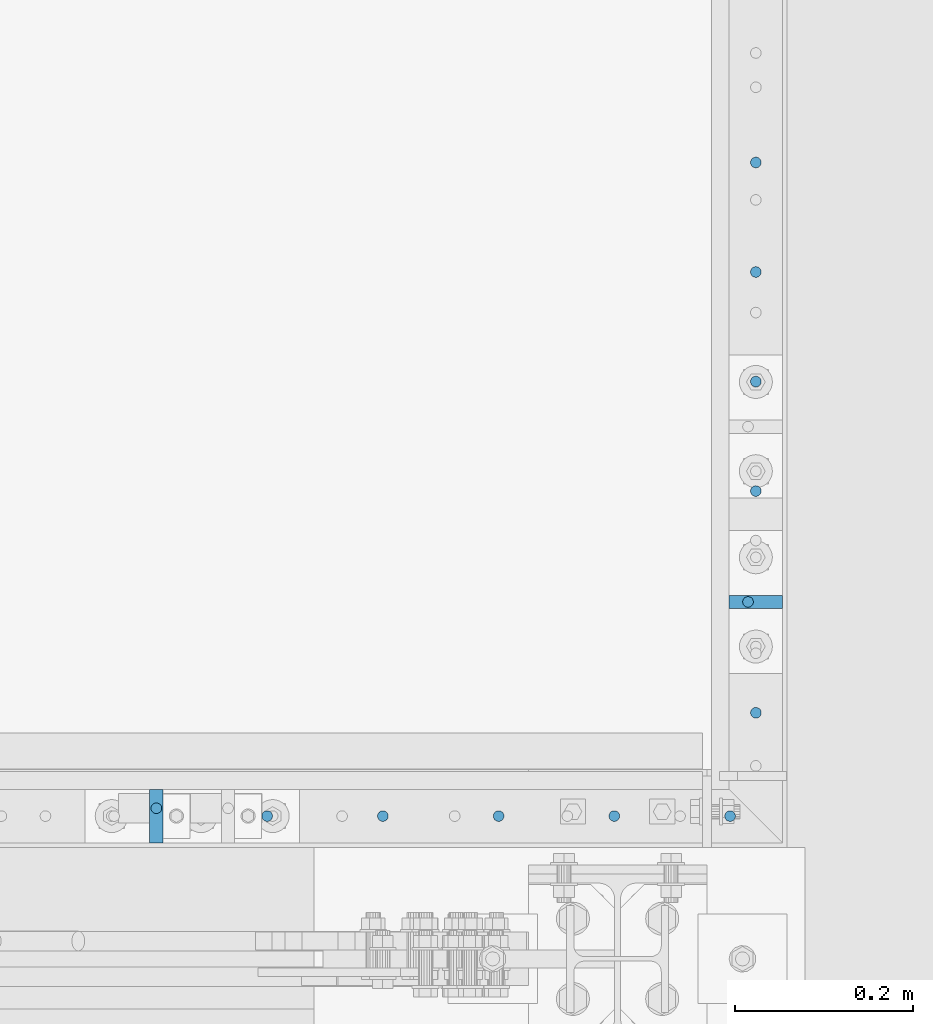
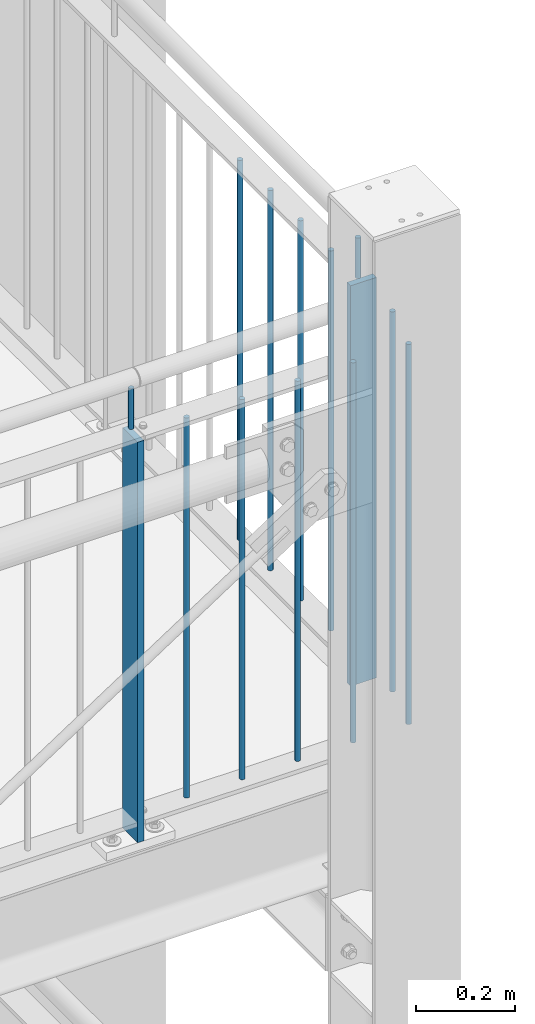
# One storey, part 90 of 821: 14 columns.
"""IFC2X3 building model written with IfcOpenShell, lengths in millimetres."""

from ifc_helpers import new_model, entity, si_unit, converted_unit, frame, origin, origin_with_axes, origin_2d, place, context, project, spatial, rectangle, circle, extrude, clip, halfspace, material, element, save


model = new_model("IFC2X3")

# Units and contexts
model_context = context("Model", 3, precision=1e-09, world=origin_with_axes())
ifc_project = project(units=[si_unit("LENGTHUNIT", "METRE", prefix="MILLI"), si_unit("AREAUNIT", "SQUARE_METRE"), si_unit("VOLUMEUNIT", "CUBIC_METRE"), converted_unit("PLANEANGLEUNIT", "DEGREE", entity("IfcPlaneAngleMeasure", 0.01745329), si_unit("PLANEANGLEUNIT", "RADIAN"), dimensions=[0, 0, 0, 0, 0, 0, 0])], contexts=[model_context])

# Site, building, storey
site_placement = place(None, origin_with_axes())
site = spatial("IfcSite", under=ifc_project, at=site_placement, Name="Cnopf'sche Kinderklinik", CompositionType="ELEMENT")
building_placement = place(site_placement, origin_with_axes())
building = spatial("IfcBuilding", under=site, at=building_placement, Name="Struktur 1", CompositionType="ELEMENT")
storey_placement = place(building_placement, origin_with_axes())
storey = spatial("IfcBuildingStorey", under=building, at=storey_placement, Name="Default Storey", CompositionType="ELEMENT", Elevation=0.0)

# Columns
ifc_material = material(Name="S235JR")
column_1_placement = place(None, frame((9021.713402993, 4766.735971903, 17563.723292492), z_axis=(0.0, 0.0, 1.0), x_axis=(0.0, -1.0, 0.0)))
element("IfcColumn", 1, at=column_1_placement, inside=storey, material=ifc_material, Name="Railing_Post_Landing#7", ObjectType="Railing_Post_Landing#7", context=model_context, shape_type="Clipping", body=[
    clip(clip(extrude(rectangle(XDim=15.0, YDim=60.0, at=origin_2d()), origin(), (0.0, 0.0, -1.0), 1070.646584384), halfspace(frame((4766.735971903, -9021.713402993, -1019.722292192), z_axis=(0.0, 0.0, 1.0), x_axis=(0.0, 1.0, 0.0)), True)), halfspace(frame((4766.735971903, -9021.713402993, -30.924292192), z_axis=(0.0, 0.0, -1.0), x_axis=(0.0, -1.0, 0.0)), True)),
])
column_2_placement = place(None, frame((8349.792260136, 4526.736971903, 17563.723292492), z_axis=(0.0, 0.0, 1.0), x_axis=(-1.0, 0.0, 0.0)))
element("IfcColumn", 2, at=column_2_placement, inside=storey, material=ifc_material, Name="Railing_Post_Landing#8", ObjectType="Railing_Post_Landing#8", context=model_context, shape_type="Clipping", body=[
    clip(clip(extrude(rectangle(XDim=15.0, YDim=60.0, at=origin_2d()), origin(), (0.0, 0.0, -1.0), 1070.646584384), halfspace(frame((8349.792260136, 4526.736971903, -1019.722292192), z_axis=(0.0, 0.0, 1.0), x_axis=(-1.0, 0.0, 0.0)), True)), halfspace(frame((8349.792260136, 4526.736971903, -30.924292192), z_axis=(0.0, 0.0, -1.0), x_axis=(1.0, 0.0, 0.0)), True)),
])
column_3_placement = place(None, frame((9021.713402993, 5259.236043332, 17546.285281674), z_axis=(0.0, 0.0, 1.0), x_axis=(0.0, -1.0, 0.0)))
element("IfcColumn", 3, at=column_3_placement, inside=storey, material=ifc_material, Name="Railing_Picket_Landing#45", ObjectType="Railing_Picket_Landing#45", context=model_context, shape_type="Clipping", body=[
    clip(clip(extrude(circle(Radius=6.0, at=origin_2d()), origin(), (0.0, 0.0, -1.0), 965.770562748), halfspace(frame((5259.236043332, -9021.713402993, -13.486281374), z_axis=(0.0, 0.0, -1.0), x_axis=(0.0, -1.0, 0.0)), True)), halfspace(frame((5259.236043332, -9021.713402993, -952.284281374), z_axis=(0.0, 0.0, 1.0), x_axis=(0.0, 1.0, 0.0)), True)),
])
column_4_placement = place(None, frame((9021.713402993, 5136.486019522, 17546.285281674), z_axis=(0.0, 0.0, 1.0), x_axis=(0.0, -1.0, 0.0)))
element("IfcColumn", 4, at=column_4_placement, inside=storey, material=ifc_material, Name="Railing_Picket_Landing#46", ObjectType="Railing_Picket_Landing#46", context=model_context, shape_type="Clipping", body=[
    clip(clip(extrude(circle(Radius=6.0, at=origin_2d()), origin(), (0.0, 0.0, -1.0), 965.770562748), halfspace(frame((5136.486019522, -9021.713402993, -13.486281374), z_axis=(0.0, 0.0, -1.0), x_axis=(0.0, -1.0, 0.0)), True)), halfspace(frame((5136.486019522, -9021.713402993, -952.284281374), z_axis=(0.0, 0.0, 1.0), x_axis=(0.0, 1.0, 0.0)), True)),
])
column_5_placement = place(None, frame((9021.713402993, 5013.735995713, 17546.285281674), z_axis=(0.0, 0.0, 1.0), x_axis=(0.0, -1.0, 0.0)))
element("IfcColumn", 5, at=column_5_placement, inside=storey, material=ifc_material, Name="Railing_Picket_Landing#47", ObjectType="Railing_Picket_Landing#47", context=model_context, shape_type="Clipping", body=[
    clip(clip(extrude(circle(Radius=6.0, at=origin_2d()), origin(), (0.0, 0.0, -1.0), 965.770562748), halfspace(frame((5013.735995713, -9021.713402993, -13.486281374), z_axis=(0.0, 0.0, -1.0), x_axis=(0.0, -1.0, 0.0)), True)), halfspace(frame((5013.735995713, -9021.713402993, -952.284281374), z_axis=(0.0, 0.0, 1.0), x_axis=(0.0, 1.0, 0.0)), True)),
])
column_6_placement = place(None, frame((9021.713402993, 4890.985971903, 17546.285281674), z_axis=(0.0, 0.0, 1.0), x_axis=(0.0, -1.0, 0.0)))
element("IfcColumn", 6, at=column_6_placement, inside=storey, material=ifc_material, Name="Railing_Picket_Landing#48", ObjectType="Railing_Picket_Landing#48", context=model_context, shape_type="Clipping", body=[
    clip(clip(extrude(circle(Radius=6.0, at=origin_2d()), origin(), (0.0, 0.0, -1.0), 965.770562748), halfspace(frame((4890.985971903, -9021.713402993, -13.486281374), z_axis=(0.0, 0.0, -1.0), x_axis=(0.0, -1.0, 0.0)), True)), halfspace(frame((4890.985971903, -9021.713402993, -952.284281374), z_axis=(0.0, 0.0, 1.0), x_axis=(0.0, 1.0, 0.0)), True)),
])
column_7_placement = place(None, frame((9021.713402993, 4642.485971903, 17546.285281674), z_axis=(0.0, 0.0, 1.0), x_axis=(0.0, -1.0, 0.0)))
element("IfcColumn", 7, at=column_7_placement, inside=storey, material=ifc_material, Name="Railing_Picket_Landing#49", ObjectType="Railing_Picket_Landing#49", context=model_context, shape_type="Clipping", body=[
    clip(clip(extrude(circle(Radius=6.0, at=origin_2d()), origin(), (0.0, 0.0, -1.0), 965.770562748), halfspace(frame((4642.485971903, -9021.713402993, -13.486281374), z_axis=(0.0, 0.0, -1.0), x_axis=(0.0, -1.0, 0.0)), True)), halfspace(frame((4642.485971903, -9021.713402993, -952.284281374), z_axis=(0.0, 0.0, 1.0), x_axis=(0.0, 1.0, 0.0)), True)),
])
column_8_placement = place(None, frame((8992.778374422, 4526.736971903, 17546.285281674), z_axis=(0.0, 0.0, 1.0), x_axis=(-1.0, 0.0, 0.0)))
element("IfcColumn", 8, at=column_8_placement, inside=storey, material=ifc_material, Name="Railing_Picket_Landing#50", ObjectType="Railing_Picket_Landing#50", context=model_context, shape_type="Clipping", body=[
    clip(clip(extrude(circle(Radius=6.0, at=origin_2d()), origin(), (0.0, 0.0, -1.0), 965.770562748), halfspace(frame((8992.778374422, 4526.736971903, -13.486281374), z_axis=(0.0, 0.0, -1.0), x_axis=(1.0, 0.0, 0.0)), True)), halfspace(frame((8992.778374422, 4526.736971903, -952.284281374), z_axis=(0.0, 0.0, 1.0), x_axis=(-1.0, 0.0, 0.0)), True)),
])
column_9_placement = place(None, frame((8863.09434585, 4526.736971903, 17546.285281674), z_axis=(0.0, 0.0, 1.0), x_axis=(-1.0, 0.0, 0.0)))
element("IfcColumn", 9, at=column_9_placement, inside=storey, material=ifc_material, Name="Railing_Picket_Landing#51", ObjectType="Railing_Picket_Landing#51", context=model_context, shape_type="Clipping", body=[
    clip(clip(extrude(circle(Radius=6.0, at=origin_2d()), origin(), (0.0, 0.0, -1.0), 965.770562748), halfspace(frame((8863.09434585, 4526.736971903, -13.486281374), z_axis=(0.0, 0.0, -1.0), x_axis=(1.0, 0.0, 0.0)), True)), halfspace(frame((8863.09434585, 4526.736971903, -952.284281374), z_axis=(0.0, 0.0, 1.0), x_axis=(-1.0, 0.0, 0.0)), True)),
])
column_10_placement = place(None, frame((8733.410317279, 4526.736971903, 17546.285281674), z_axis=(0.0, 0.0, 1.0), x_axis=(-1.0, 0.0, 0.0)))
element("IfcColumn", 10, at=column_10_placement, inside=storey, material=ifc_material, Name="Railing_Picket_Landing#52", ObjectType="Railing_Picket_Landing#52", context=model_context, shape_type="Clipping", body=[
    clip(clip(extrude(circle(Radius=6.0, at=origin_2d()), origin(), (0.0, 0.0, -1.0), 965.770562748), halfspace(frame((8733.410317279, 4526.736971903, -13.486281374), z_axis=(0.0, 0.0, -1.0), x_axis=(1.0, 0.0, 0.0)), True)), halfspace(frame((8733.410317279, 4526.736971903, -952.284281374), z_axis=(0.0, 0.0, 1.0), x_axis=(-1.0, 0.0, 0.0)), True)),
])
column_11_placement = place(None, frame((8603.726288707, 4526.736971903, 17546.285281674), z_axis=(0.0, 0.0, 1.0), x_axis=(-1.0, 0.0, 0.0)))
element("IfcColumn", 11, at=column_11_placement, inside=storey, material=ifc_material, Name="Railing_Picket_Landing#53", ObjectType="Railing_Picket_Landing#53", context=model_context, shape_type="Clipping", body=[
    clip(clip(extrude(circle(Radius=6.0, at=origin_2d()), origin(), (0.0, 0.0, -1.0), 965.770562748), halfspace(frame((8603.726288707, 4526.736971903, -13.486281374), z_axis=(0.0, 0.0, -1.0), x_axis=(1.0, 0.0, 0.0)), True)), halfspace(frame((8603.726288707, 4526.736971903, -952.284281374), z_axis=(0.0, 0.0, 1.0), x_axis=(-1.0, 0.0, 0.0)), True)),
])
column_12_placement = place(None, frame((8474.042260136, 4526.736971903, 17546.285281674), z_axis=(0.0, 0.0, 1.0), x_axis=(-1.0, 0.0, 0.0)))
element("IfcColumn", 12, at=column_12_placement, inside=storey, material=ifc_material, Name="Railing_Picket_Landing#54", ObjectType="Railing_Picket_Landing#54", context=model_context, shape_type="Clipping", body=[
    clip(clip(extrude(circle(Radius=6.0, at=origin_2d()), origin(), (0.0, 0.0, -1.0), 965.770562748), halfspace(frame((8474.042260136, 4526.736971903, -13.486281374), z_axis=(0.0, 0.0, -1.0), x_axis=(1.0, 0.0, 0.0)), True)), halfspace(frame((8474.042260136, 4526.736971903, -952.284281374), z_axis=(0.0, 0.0, 1.0), x_axis=(-1.0, 0.0, 0.0)), True)),
])
column_13_placement = place(None, frame((9012.913402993, 4766.735971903, 17651.285281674), z_axis=(0.0, 0.0, 1.0), x_axis=(-1.0, 0.0, 0.0)))
element("IfcColumn", 13, at=column_13_placement, inside=storey, material=ifc_material, Name="Bar#7", ObjectType="Bar#7", context=model_context, shape_type="Clipping", body=[
    clip(clip(extrude(circle(Radius=6.0, at=origin_2d()), origin(), (0.0, 0.0, -1.0), 116.970562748), halfspace(frame((9012.913402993, 4766.735971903, -8.486281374), z_axis=(0.0, 0.0, -1.0), x_axis=(1.0, 0.0, 0.0)), True)), halfspace(frame((9012.913402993, 4766.735971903, -108.484281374), z_axis=(0.0, 0.0, 1.0), x_axis=(-1.0, 0.0, 0.0)), True)),
])
column_14_placement = place(None, frame((8349.792260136, 4535.536971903, 17651.285281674), z_axis=(0.0, 0.0, 1.0), x_axis=(0.0, 1.0, 0.0)))
element("IfcColumn", 14, at=column_14_placement, inside=storey, material=ifc_material, Name="Bar#8", ObjectType="Bar#8", context=model_context, shape_type="Clipping", body=[
    clip(clip(extrude(circle(Radius=6.0, at=origin_2d()), origin(), (0.0, 0.0, -1.0), 116.970562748), halfspace(frame((-4535.536971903, 8349.792260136, -8.486281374), z_axis=(0.0, 0.0, -1.0), x_axis=(0.0, 1.0, 0.0)), True)), halfspace(frame((-4535.536971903, 8349.792260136, -108.484281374), z_axis=(0.0, 0.0, 1.0), x_axis=(0.0, -1.0, 0.0)), True)),
])

save(model, "model.ifc")
